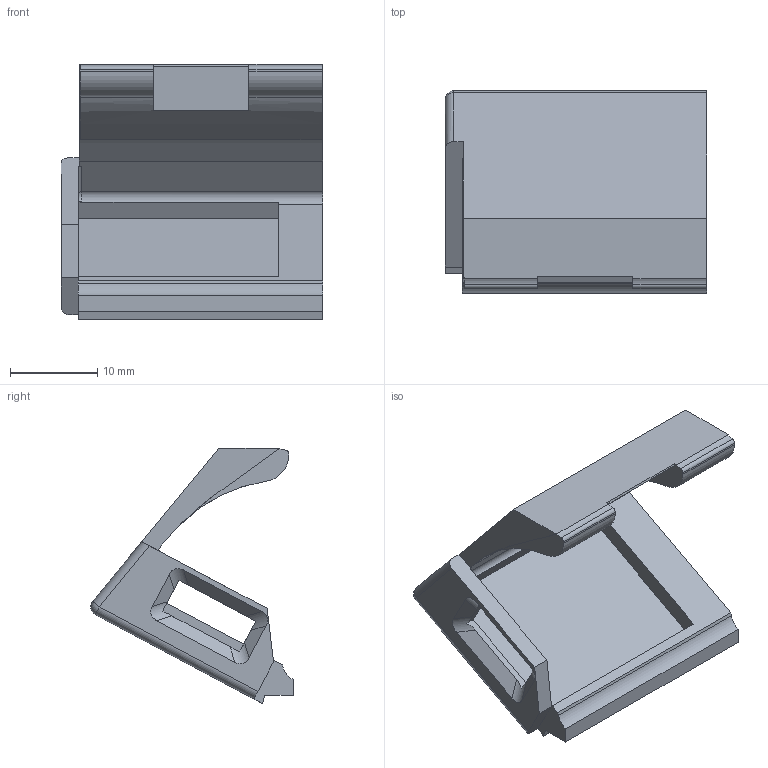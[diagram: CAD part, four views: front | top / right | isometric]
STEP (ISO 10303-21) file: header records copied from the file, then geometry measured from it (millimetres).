
FILE_DESCRIPTION(/* description */ (''),/* implementation_level */ '2;1');
FILE_NAME(/* name */ 'back - sideUSB.step',/* time_stamp */ '2025-11-27T12:19:06+01:00',/* author */ (''),/* organization */ (''),/* preprocessor_version */ 'ST-DEVELOPER v20.1',/* originating_system */ 'Autodesk Translation Framework v14.21.0.0',/* authorisation */ '');
FILE_SCHEMA (('AUTOMOTIVE_DESIGN { 1 0 10303 214 3 1 1 }'));
Length unit declared in the file: millimetre
Products named in the file (1): Back
Bounding box: 30.1 x 23.27 x 29.34 mm (x, y, z)
Volume: 4485.9 mm3; surface area: 3822 mm2
Topology: 1 solids, 1 shells, 60 faces, 167 edges, 108 vertices
Faces by surface type: plane 40, cylinder 18, sphere 1, torus 1
Entity records: 1963 total; most frequent: CARTESIAN_POINT 345, ORIENTED_EDGE 334, DIRECTION 334, EDGE_CURVE 167, LINE 120, VECTOR 120, VERTEX_POINT 108, AXIS2_PLACEMENT_3D 107
